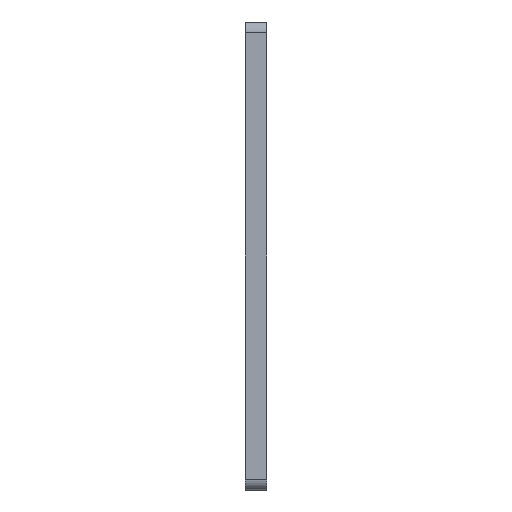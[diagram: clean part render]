
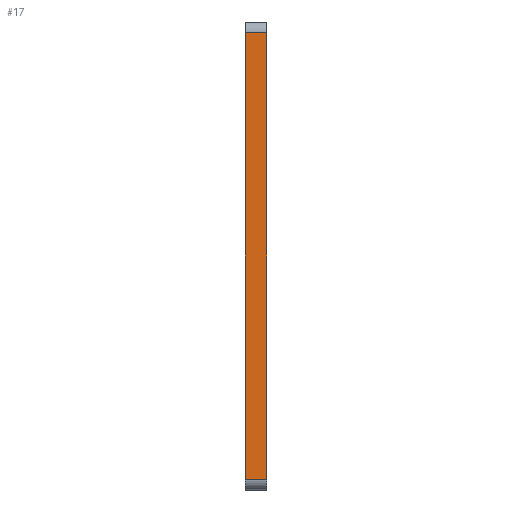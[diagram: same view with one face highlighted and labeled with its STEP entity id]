
A CAD part, left-side view. The second image highlights one B-rep face of the part: STEP entity #17.
In plain terms, the highlighted planar face has unit normal (-1, 0, 0).
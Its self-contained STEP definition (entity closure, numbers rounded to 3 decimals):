
#17 = ADVANCED_FACE('',(#18),#32,.F.);
#18 = FACE_BOUND('',#19,.F.);
#19 = EDGE_LOOP('',(#20,#55,#83,#111));
#20 = ORIENTED_EDGE('',*,*,#21,.F.);
#21 = EDGE_CURVE('',#22,#24,#26,.T.);
#22 = VERTEX_POINT('',#23);
#23 = CARTESIAN_POINT('',(-70.05,112.5,-6.));
#24 = VERTEX_POINT('',#25);
#25 = CARTESIAN_POINT('',(-70.05,112.5,78.1));
#26 = SURFACE_CURVE('',#27,(#31,#43),.PCURVE_S1.);
#27 = LINE('',#28,#29);
#28 = CARTESIAN_POINT('',(-70.05,112.5,-8.));
#29 = VECTOR('',#30,1.);
#30 = DIRECTION('',(0.,0.,1.));
#31 = PCURVE('',#32,#37);
#32 = PLANE('',#33);
#33 = AXIS2_PLACEMENT_3D('',#34,#35,#36);
#34 = CARTESIAN_POINT('',(-70.05,112.5,-8.));
#35 = DIRECTION('',(1.,0.,0.));
#36 = DIRECTION('',(0.,0.,1.));
#37 = DEFINITIONAL_REPRESENTATION('',(#38),#42);
#38 = LINE('',#39,#40);
#39 = CARTESIAN_POINT('',(0.,0.));
#40 = VECTOR('',#41,1.);
#41 = DIRECTION('',(1.,0.));
#42 = ( GEOMETRIC_REPRESENTATION_CONTEXT(2) 
PARAMETRIC_REPRESENTATION_CONTEXT() REPRESENTATION_CONTEXT('2D SPACE',''
  ) );
#43 = PCURVE('',#44,#49);
#44 = PLANE('',#45);
#45 = AXIS2_PLACEMENT_3D('',#46,#47,#48);
#46 = CARTESIAN_POINT('',(-70.05,112.5,-8.));
#47 = DIRECTION('',(0.,1.,0.));
#48 = DIRECTION('',(0.,0.,1.));
#49 = DEFINITIONAL_REPRESENTATION('',(#50),#54);
#50 = LINE('',#51,#52);
#51 = CARTESIAN_POINT('',(0.,0.));
#52 = VECTOR('',#53,1.);
#53 = DIRECTION('',(1.,0.));
#54 = ( GEOMETRIC_REPRESENTATION_CONTEXT(2) 
PARAMETRIC_REPRESENTATION_CONTEXT() REPRESENTATION_CONTEXT('2D SPACE',''
  ) );
#55 = ORIENTED_EDGE('',*,*,#56,.T.);
#56 = EDGE_CURVE('',#22,#57,#59,.T.);
#57 = VERTEX_POINT('',#58);
#58 = CARTESIAN_POINT('',(-70.05,116.5,-6.));
#59 = SURFACE_CURVE('',#60,(#64,#71),.PCURVE_S1.);
#60 = LINE('',#61,#62);
#61 = CARTESIAN_POINT('',(-70.05,112.5,-6.));
#62 = VECTOR('',#63,1.);
#63 = DIRECTION('',(0.,1.,0.));
#64 = PCURVE('',#32,#65);
#65 = DEFINITIONAL_REPRESENTATION('',(#66),#70);
#66 = LINE('',#67,#68);
#67 = CARTESIAN_POINT('',(2.,0.));
#68 = VECTOR('',#69,1.);
#69 = DIRECTION('',(0.,-1.));
#70 = ( GEOMETRIC_REPRESENTATION_CONTEXT(2) 
PARAMETRIC_REPRESENTATION_CONTEXT() REPRESENTATION_CONTEXT('2D SPACE',''
  ) );
#71 = PCURVE('',#72,#77);
#72 = CYLINDRICAL_SURFACE('',#73,2.);
#73 = AXIS2_PLACEMENT_3D('',#74,#75,#76);
#74 = CARTESIAN_POINT('',(-68.05,112.5,-6.));
#75 = DIRECTION('',(0.,1.,0.));
#76 = DIRECTION('',(-1.,0.,0.));
#77 = DEFINITIONAL_REPRESENTATION('',(#78),#82);
#78 = LINE('',#79,#80);
#79 = CARTESIAN_POINT('',(-0.,0.));
#80 = VECTOR('',#81,1.);
#81 = DIRECTION('',(-0.,1.));
#82 = ( GEOMETRIC_REPRESENTATION_CONTEXT(2) 
PARAMETRIC_REPRESENTATION_CONTEXT() REPRESENTATION_CONTEXT('2D SPACE',''
  ) );
#83 = ORIENTED_EDGE('',*,*,#84,.T.);
#84 = EDGE_CURVE('',#57,#85,#87,.T.);
#85 = VERTEX_POINT('',#86);
#86 = CARTESIAN_POINT('',(-70.05,116.5,78.1));
#87 = SURFACE_CURVE('',#88,(#92,#99),.PCURVE_S1.);
#88 = LINE('',#89,#90);
#89 = CARTESIAN_POINT('',(-70.05,116.5,-8.));
#90 = VECTOR('',#91,1.);
#91 = DIRECTION('',(0.,0.,1.));
#92 = PCURVE('',#32,#93);
#93 = DEFINITIONAL_REPRESENTATION('',(#94),#98);
#94 = LINE('',#95,#96);
#95 = CARTESIAN_POINT('',(0.,-4.));
#96 = VECTOR('',#97,1.);
#97 = DIRECTION('',(1.,0.));
#98 = ( GEOMETRIC_REPRESENTATION_CONTEXT(2) 
PARAMETRIC_REPRESENTATION_CONTEXT() REPRESENTATION_CONTEXT('2D SPACE',''
  ) );
#99 = PCURVE('',#100,#105);
#100 = PLANE('',#101);
#101 = AXIS2_PLACEMENT_3D('',#102,#103,#104);
#102 = CARTESIAN_POINT('',(-70.05,116.5,-8.));
#103 = DIRECTION('',(0.,1.,0.));
#104 = DIRECTION('',(0.,0.,1.));
#105 = DEFINITIONAL_REPRESENTATION('',(#106),#110);
#106 = LINE('',#107,#108);
#107 = CARTESIAN_POINT('',(0.,0.));
#108 = VECTOR('',#109,1.);
#109 = DIRECTION('',(1.,0.));
#110 = ( GEOMETRIC_REPRESENTATION_CONTEXT(2) 
PARAMETRIC_REPRESENTATION_CONTEXT() REPRESENTATION_CONTEXT('2D SPACE',''
  ) );
#111 = ORIENTED_EDGE('',*,*,#112,.F.);
#112 = EDGE_CURVE('',#24,#85,#113,.T.);
#113 = SURFACE_CURVE('',#114,(#118,#125),.PCURVE_S1.);
#114 = LINE('',#115,#116);
#115 = CARTESIAN_POINT('',(-70.05,112.5,78.1));
#116 = VECTOR('',#117,1.);
#117 = DIRECTION('',(0.,1.,0.));
#118 = PCURVE('',#32,#119);
#119 = DEFINITIONAL_REPRESENTATION('',(#120),#124);
#120 = LINE('',#121,#122);
#121 = CARTESIAN_POINT('',(86.1,0.));
#122 = VECTOR('',#123,1.);
#123 = DIRECTION('',(0.,-1.));
#124 = ( GEOMETRIC_REPRESENTATION_CONTEXT(2) 
PARAMETRIC_REPRESENTATION_CONTEXT() REPRESENTATION_CONTEXT('2D SPACE',''
  ) );
#125 = PCURVE('',#126,#131);
#126 = CYLINDRICAL_SURFACE('',#127,2.);
#127 = AXIS2_PLACEMENT_3D('',#128,#129,#130);
#128 = CARTESIAN_POINT('',(-68.05,112.5,78.1));
#129 = DIRECTION('',(0.,1.,0.));
#130 = DIRECTION('',(-1.,0.,0.));
#131 = DEFINITIONAL_REPRESENTATION('',(#132),#136);
#132 = LINE('',#133,#134);
#133 = CARTESIAN_POINT('',(0.,0.));
#134 = VECTOR('',#135,1.);
#135 = DIRECTION('',(0.,1.));
#136 = ( GEOMETRIC_REPRESENTATION_CONTEXT(2) 
PARAMETRIC_REPRESENTATION_CONTEXT() REPRESENTATION_CONTEXT('2D SPACE',''
  ) );
